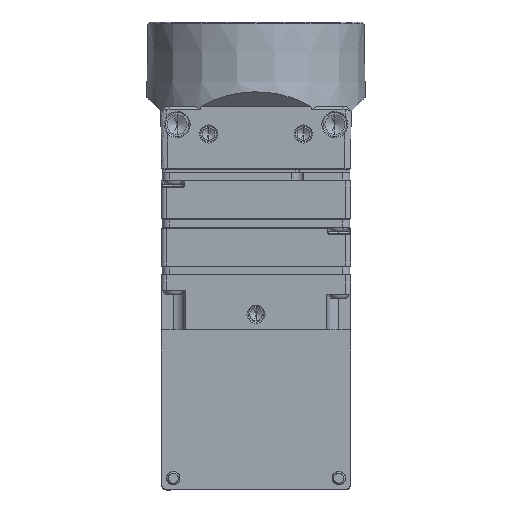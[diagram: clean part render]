
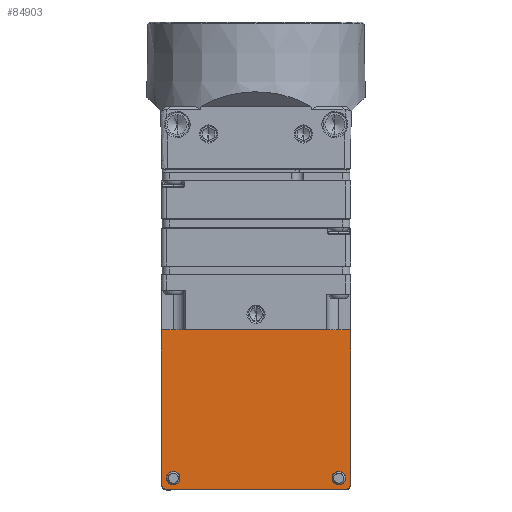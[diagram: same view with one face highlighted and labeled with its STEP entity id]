
A CAD part, front view. The second image highlights one B-rep face of the part: STEP entity #84903.
In plain terms, the highlighted planar face has unit normal (0, -1, 0).
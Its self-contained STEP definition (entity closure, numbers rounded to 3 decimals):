
#2149 = DIRECTION ( 'NONE',  ( -1., 0., 0. ) ) ;
#2733 = VERTEX_POINT ( 'NONE', #90143 ) ;
#6248 = DIRECTION ( 'NONE',  ( 0., 0., -1. ) ) ;
#6681 = VECTOR ( 'NONE', #20838, 1000. ) ;
#7132 = CIRCLE ( 'NONE', #76971, 0.85 ) ;
#9181 = CIRCLE ( 'NONE', #34272, 0.6 ) ;
#9416 = VECTOR ( 'NONE', #20649, 1000. ) ;
#13020 = VECTOR ( 'NONE', #81818, 1000. ) ;
#14846 = VECTOR ( 'NONE', #2149, 1000. ) ;
#15174 = AXIS2_PLACEMENT_3D ( 'NONE', #86862, #61920, #99293 ) ;
#15694 = DIRECTION ( 'NONE',  ( 0., -1., 0. ) ) ;
#16357 = CARTESIAN_POINT ( 'NONE',  ( 10.5, 6.5, -38.3 ) ) ;
#17461 = EDGE_CURVE ( 'NONE', #115869, #143812, #9181, .T. ) ;
#17731 = EDGE_CURVE ( 'NONE', #85638, #154142, #119640, .T. ) ;
#19842 = AXIS2_PLACEMENT_3D ( 'NONE', #89025, #15694, #124091 ) ;
#20649 = DIRECTION ( 'NONE',  ( 0., 0., -1. ) ) ;
#20838 = DIRECTION ( 'NONE',  ( -1., 0., 0. ) ) ;
#21607 = LINE ( 'NONE', #118242, #6681 ) ;
#23306 = EDGE_CURVE ( 'NONE', #64547, #95112, #85025, .T. ) ;
#26062 = EDGE_CURVE ( 'NONE', #115869, #44898, #143366, .T. ) ;
#28527 = EDGE_LOOP ( 'NONE', ( #153769, #61607 ) ) ;
#29663 = DIRECTION ( 'NONE',  ( 0., -1., 0. ) ) ;
#29674 = CARTESIAN_POINT ( 'NONE',  ( 10.5, 6.5, -39.15 ) ) ;
#33009 = EDGE_CURVE ( 'NONE', #79389, #143812, #21607, .T. ) ;
#34272 = AXIS2_PLACEMENT_3D ( 'NONE', #58675, #128109, #126571 ) ;
#35750 = CARTESIAN_POINT ( 'NONE',  ( 0., 6.5, -20.35 ) ) ;
#38885 = CARTESIAN_POINT ( 'NONE',  ( -12., 6.5, -39.95 ) ) ;
#42469 = CARTESIAN_POINT ( 'NONE',  ( 0., 6.5, -16.85 ) ) ;
#42538 = EDGE_LOOP ( 'NONE', ( #99355, #150323 ) ) ;
#44898 = VERTEX_POINT ( 'NONE', #111224 ) ;
#46763 = ORIENTED_EDGE ( 'NONE', *, *, #146201, .F. ) ;
#52334 = DIRECTION ( 'NONE',  ( 0., 0., -1. ) ) ;
#53438 = ORIENTED_EDGE ( 'NONE', *, *, #33009, .F. ) ;
#58675 = CARTESIAN_POINT ( 'NONE',  ( -11.4, 6.5, -39.95 ) ) ;
#60020 = CARTESIAN_POINT ( 'NONE',  ( 10.5, 6.5, -40. ) ) ;
#60956 = EDGE_CURVE ( 'NONE', #95112, #64547, #144097, .T. ) ;
#61607 = ORIENTED_EDGE ( 'NONE', *, *, #102584, .F. ) ;
#61920 = DIRECTION ( 'NONE',  ( 0., -1., 0. ) ) ;
#64547 = VERTEX_POINT ( 'NONE', #87406 ) ;
#64858 = DIRECTION ( 'NONE',  ( 0., -1., 0. ) ) ;
#68887 = EDGE_LOOP ( 'NONE', ( #53438, #139150, #46763, #152889, #145342, #143081 ) ) ;
#70625 = CARTESIAN_POINT ( 'NONE',  ( 12., 6.5, -20.35 ) ) ;
#73107 = AXIS2_PLACEMENT_3D ( 'NONE', #42469, #146213, #90051 ) ;
#75749 = DIRECTION ( 'NONE',  ( 0., -1., 0. ) ) ;
#76408 = CARTESIAN_POINT ( 'NONE',  ( 11.4, 6.5, -40.55 ) ) ;
#76971 = AXIS2_PLACEMENT_3D ( 'NONE', #120449, #64858, #85390 ) ;
#79389 = VERTEX_POINT ( 'NONE', #76408 ) ;
#79637 = CIRCLE ( 'NONE', #19842, 0.6 ) ;
#81818 = DIRECTION ( 'NONE',  ( 0., 0., 1. ) ) ;
#84355 = AXIS2_PLACEMENT_3D ( 'NONE', #136531, #29663, #6248 ) ;
#84903 = ADVANCED_FACE ( 'NONE', ( #134527, #101726, #149283 ), #111887, .T. ) ;
#85025 = CIRCLE ( 'NONE', #15174, 0.85 ) ;
#85390 = DIRECTION ( 'NONE',  ( 0., 0., -1. ) ) ;
#85638 = VERTEX_POINT ( 'NONE', #16357 ) ;
#86862 = CARTESIAN_POINT ( 'NONE',  ( -10.5, 6.5, -39.15 ) ) ;
#87406 = CARTESIAN_POINT ( 'NONE',  ( -10.5, 6.5, -38.3 ) ) ;
#89025 = CARTESIAN_POINT ( 'NONE',  ( 11.4, 6.5, -39.95 ) ) ;
#90051 = DIRECTION ( 'NONE',  ( 0., 0., -1. ) ) ;
#90090 = LINE ( 'NONE', #126709, #9416 ) ;
#90143 = CARTESIAN_POINT ( 'NONE',  ( 12., 6.5, -39.95 ) ) ;
#90913 = EDGE_CURVE ( 'NONE', #143149, #44898, #118404, .T. ) ;
#95112 = VERTEX_POINT ( 'NONE', #109494 ) ;
#99293 = DIRECTION ( 'NONE',  ( 0., 0., -1. ) ) ;
#99355 = ORIENTED_EDGE ( 'NONE', *, *, #23306, .F. ) ;
#101726 = FACE_BOUND ( 'NONE', #28527, .T. ) ;
#102584 = EDGE_CURVE ( 'NONE', #154142, #85638, #7132, .T. ) ;
#104669 = EDGE_CURVE ( 'NONE', #79389, #2733, #79637, .T. ) ;
#109494 = CARTESIAN_POINT ( 'NONE',  ( -10.5, 6.5, -40. ) ) ;
#111224 = CARTESIAN_POINT ( 'NONE',  ( -12., 6.5, -20.35 ) ) ;
#111887 = PLANE ( 'NONE',  #73107 ) ;
#115869 = VERTEX_POINT ( 'NONE', #38885 ) ;
#118242 = CARTESIAN_POINT ( 'NONE',  ( -12., 6.5, -40.55 ) ) ;
#118404 = LINE ( 'NONE', #35750, #14846 ) ;
#119640 = CIRCLE ( 'NONE', #144589, 0.85 ) ;
#120449 = CARTESIAN_POINT ( 'NONE',  ( 10.5, 6.5, -39.15 ) ) ;
#124091 = DIRECTION ( 'NONE',  ( 0., 0., -1. ) ) ;
#126571 = DIRECTION ( 'NONE',  ( 0., 0., -1. ) ) ;
#126709 = CARTESIAN_POINT ( 'NONE',  ( 12., 6.5, -16.55 ) ) ;
#128109 = DIRECTION ( 'NONE',  ( 0., -1., 0. ) ) ;
#134527 = FACE_BOUND ( 'NONE', #42538, .T. ) ;
#136531 = CARTESIAN_POINT ( 'NONE',  ( -10.5, 6.5, -39.15 ) ) ;
#139150 = ORIENTED_EDGE ( 'NONE', *, *, #104669, .T. ) ;
#143081 = ORIENTED_EDGE ( 'NONE', *, *, #17461, .T. ) ;
#143149 = VERTEX_POINT ( 'NONE', #70625 ) ;
#143366 = LINE ( 'NONE', #144138, #13020 ) ;
#143812 = VERTEX_POINT ( 'NONE', #147907 ) ;
#144097 = CIRCLE ( 'NONE', #84355, 0.85 ) ;
#144138 = CARTESIAN_POINT ( 'NONE',  ( -12., 6.5, -16.55 ) ) ;
#144589 = AXIS2_PLACEMENT_3D ( 'NONE', #29674, #75749, #52334 ) ;
#145342 = ORIENTED_EDGE ( 'NONE', *, *, #26062, .F. ) ;
#146201 = EDGE_CURVE ( 'NONE', #143149, #2733, #90090, .T. ) ;
#146213 = DIRECTION ( 'NONE',  ( 0., -1., 0. ) ) ;
#147907 = CARTESIAN_POINT ( 'NONE',  ( -11.4, 6.5, -40.55 ) ) ;
#149283 = FACE_OUTER_BOUND ( 'NONE', #68887, .T. ) ;
#150323 = ORIENTED_EDGE ( 'NONE', *, *, #60956, .F. ) ;
#152889 = ORIENTED_EDGE ( 'NONE', *, *, #90913, .T. ) ;
#153769 = ORIENTED_EDGE ( 'NONE', *, *, #17731, .F. ) ;
#154142 = VERTEX_POINT ( 'NONE', #60020 ) ;
